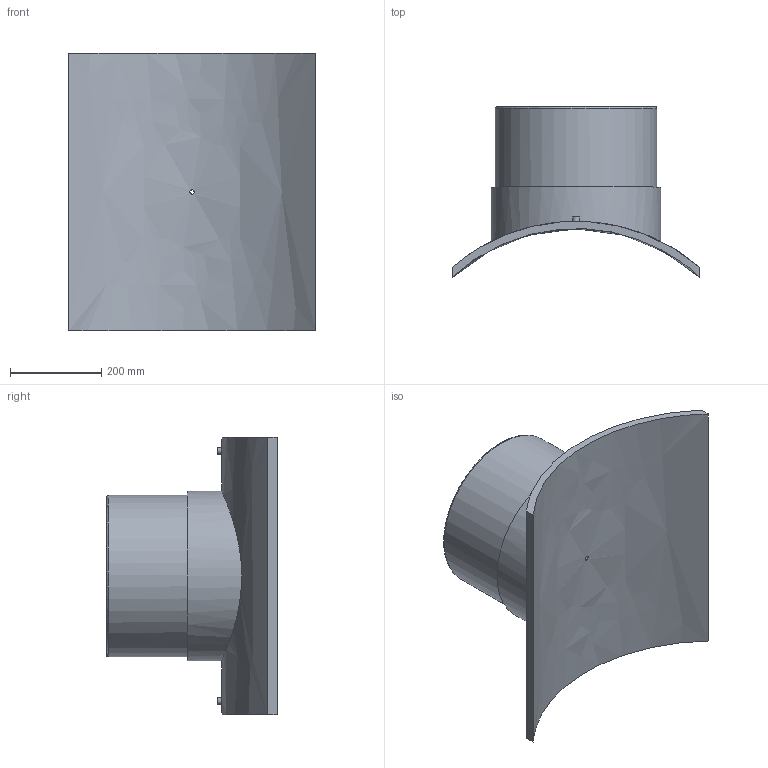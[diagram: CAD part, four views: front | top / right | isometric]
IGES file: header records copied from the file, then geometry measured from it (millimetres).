
Global section: file name: 495803800355T; native system: Autodesk Inventor 2019; preprocessor: unknown; author: KIM; date: 20240404.115756; units: millimetre
Bounding box: 543 x 374.25 x 610 mm (x, y, z)
Volume: 16335476.9 mm3; surface area: 1323705.5 mm2
Topology: 1 solids, 1 shells, 29 faces, 60 edges, 43 vertices
Faces by surface type: bspline 29
